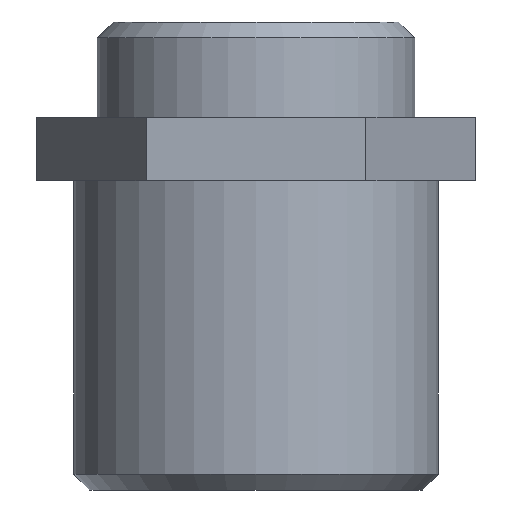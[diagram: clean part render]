
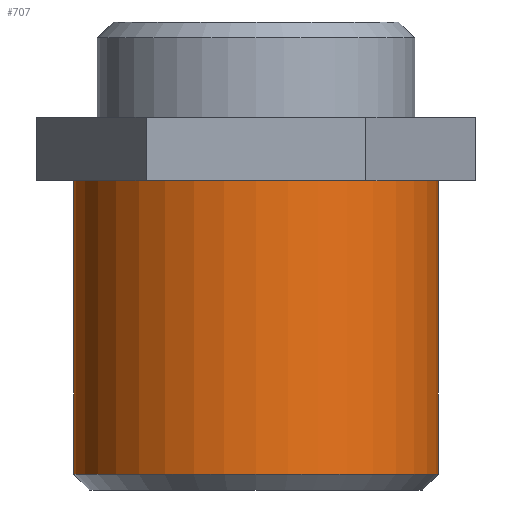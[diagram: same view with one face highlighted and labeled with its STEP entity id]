
A CAD part, front view. The second image highlights one B-rep face of the part: STEP entity #707.
In plain terms, the highlighted cylindrical face has radius 11.5 mm (diameter 23 mm), a partial arc.
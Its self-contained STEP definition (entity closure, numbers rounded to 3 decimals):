
#17 = DIRECTION ( 'NONE',  ( 0., 0., 1. ) ) ;
#70 = EDGE_CURVE ( 'NONE', #1902, #2052, #78, .T. ) ;
#78 = LINE ( 'NONE', #427, #690 ) ;
#206 = DIRECTION ( 'NONE',  ( 1., 0., 0. ) ) ;
#322 = CARTESIAN_POINT ( 'NONE',  ( 11.5, 0., -29.5 ) ) ;
#350 = CIRCLE ( 'NONE', #1369, 11.5 ) ;
#427 = CARTESIAN_POINT ( 'NONE',  ( -11.5, 0., -29.5 ) ) ;
#455 = CARTESIAN_POINT ( 'NONE',  ( 11.5, 0., -28.5 ) ) ;
#468 = ORIENTED_EDGE ( 'NONE', *, *, #1636, .T. ) ;
#523 = AXIS2_PLACEMENT_3D ( 'NONE', #2152, #871, #206 ) ;
#690 = VECTOR ( 'NONE', #1556, 1000. ) ;
#707 = ADVANCED_FACE ( 'NONE', ( #2565 ), #2504, .T. ) ;
#712 = VERTEX_POINT ( 'NONE', #986 ) ;
#729 = EDGE_LOOP ( 'NONE', ( #2633, #2659, #1278, #468 ) ) ;
#871 = DIRECTION ( 'NONE',  ( 0., 0., -1. ) ) ;
#953 = CARTESIAN_POINT ( 'NONE',  ( -11.5, 0., -28.5 ) ) ;
#986 = CARTESIAN_POINT ( 'NONE',  ( 11.5, 0., -10. ) ) ;
#1023 = CIRCLE ( 'NONE', #523, 11.5 ) ;
#1059 = DIRECTION ( 'NONE',  ( -1., 0., 0. ) ) ;
#1143 = VECTOR ( 'NONE', #17, 1000. ) ;
#1194 = LINE ( 'NONE', #322, #1143 ) ;
#1278 = ORIENTED_EDGE ( 'NONE', *, *, #1592, .T. ) ;
#1369 = AXIS2_PLACEMENT_3D ( 'NONE', #1817, #2156, #1059 ) ;
#1556 = DIRECTION ( 'NONE',  ( 0., 0., 1. ) ) ;
#1591 = DIRECTION ( 'NONE',  ( 0., 0., 1. ) ) ;
#1592 = EDGE_CURVE ( 'NONE', #1970, #712, #1194, .T. ) ;
#1636 = EDGE_CURVE ( 'NONE', #712, #2052, #1023, .T. ) ;
#1817 = CARTESIAN_POINT ( 'NONE',  ( 0., 0., -28.5 ) ) ;
#1880 = CARTESIAN_POINT ( 'NONE',  ( -11.5, 0., -10. ) ) ;
#1902 = VERTEX_POINT ( 'NONE', #953 ) ;
#1912 = EDGE_CURVE ( 'NONE', #1902, #1970, #350, .T. ) ;
#1970 = VERTEX_POINT ( 'NONE', #455 ) ;
#2052 = VERTEX_POINT ( 'NONE', #1880 ) ;
#2152 = CARTESIAN_POINT ( 'NONE',  ( 0., 0., -10. ) ) ;
#2156 = DIRECTION ( 'NONE',  ( 0., 0., 1. ) ) ;
#2504 = CYLINDRICAL_SURFACE ( 'NONE', #2517, 11.5 ) ;
#2517 = AXIS2_PLACEMENT_3D ( 'NONE', #2739, #1591, #2628 ) ;
#2565 = FACE_OUTER_BOUND ( 'NONE', #729, .T. ) ;
#2628 = DIRECTION ( 'NONE',  ( 1., 0., 0. ) ) ;
#2633 = ORIENTED_EDGE ( 'NONE', *, *, #70, .F. ) ;
#2659 = ORIENTED_EDGE ( 'NONE', *, *, #1912, .T. ) ;
#2739 = CARTESIAN_POINT ( 'NONE',  ( 0., 0., -29.5 ) ) ;
